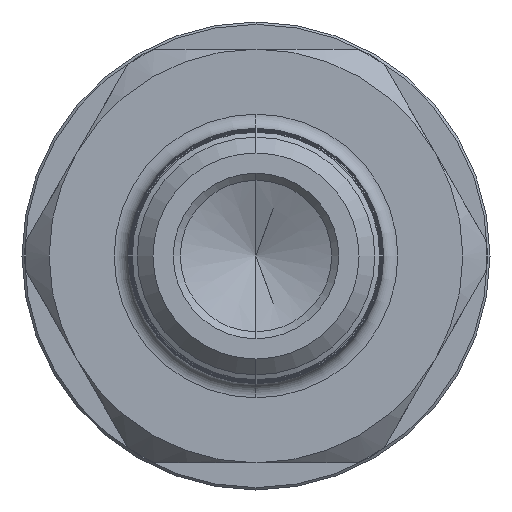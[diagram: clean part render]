
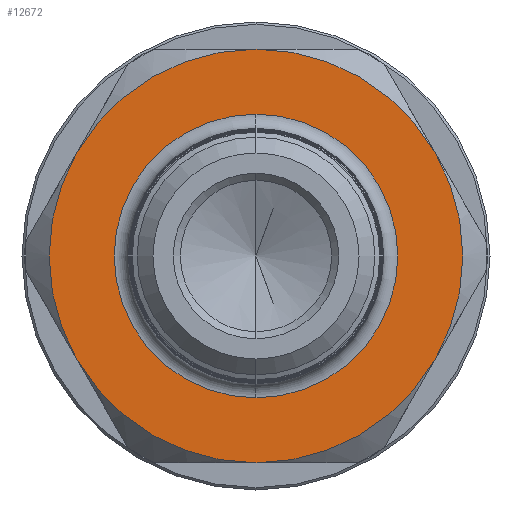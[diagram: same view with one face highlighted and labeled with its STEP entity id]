
A CAD part, left-side view. The second image highlights one B-rep face of the part: STEP entity #12672.
In plain terms, the highlighted planar face has unit normal (-1, 0, 0).
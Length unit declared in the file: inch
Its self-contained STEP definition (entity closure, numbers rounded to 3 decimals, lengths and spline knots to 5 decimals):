
#348 = AXIS2_PLACEMENT_3D ( 'NONE', #9027, #2394, #11567 ) ;
#489 = CARTESIAN_POINT ( 'NONE',  ( 0.585, 0., 0. ) ) ;
#509 = ORIENTED_EDGE ( 'NONE', *, *, #13363, .T. ) ;
#1036 = DIRECTION ( 'NONE',  ( 1., 0., 0. ) ) ;
#1224 = DIRECTION ( 'NONE',  ( 0., 0., 1. ) ) ;
#1473 = DIRECTION ( 'NONE',  ( 0., 0., 1. ) ) ;
#1523 = AXIS2_PLACEMENT_3D ( 'NONE', #5526, #14771, #13636 ) ;
#1628 = CARTESIAN_POINT ( 'NONE',  ( 0.585, 0., 0. ) ) ;
#1769 = DIRECTION ( 'NONE',  ( 0., 0., 1. ) ) ;
#2010 = DIRECTION ( 'NONE',  ( 0., 0., 1. ) ) ;
#2245 = CIRCLE ( 'NONE', #1523, 0.4375 ) ;
#2303 = CARTESIAN_POINT ( 'NONE',  ( 0.585, 0.37889, 0.21875 ) ) ;
#2394 = DIRECTION ( 'NONE',  ( -1., 0., 0. ) ) ;
#2930 = ORIENTED_EDGE ( 'NONE', *, *, #8125, .T. ) ;
#2974 = EDGE_CURVE ( 'NONE', #11165, #11963, #11722, .T. ) ;
#3140 = ORIENTED_EDGE ( 'NONE', *, *, #2974, .T. ) ;
#3210 = AXIS2_PLACEMENT_3D ( 'NONE', #9764, #12318, #2010 ) ;
#3410 = CIRCLE ( 'NONE', #4601, 0.3 ) ;
#3675 = ORIENTED_EDGE ( 'NONE', *, *, #14677, .T. ) ;
#3727 = EDGE_CURVE ( 'NONE', #6161, #7448, #10422, .T. ) ;
#3799 = VERTEX_POINT ( 'NONE', #14045 ) ;
#4431 = CIRCLE ( 'NONE', #14760, 0.4375 ) ;
#4442 = CARTESIAN_POINT ( 'NONE',  ( 0.585, 0.37889, -0.21875 ) ) ;
#4601 = AXIS2_PLACEMENT_3D ( 'NONE', #9273, #13997, #1224 ) ;
#5342 = CARTESIAN_POINT ( 'NONE',  ( 0.585, 0., 0.4375 ) ) ;
#5526 = CARTESIAN_POINT ( 'NONE',  ( 0.585, 0., 0. ) ) ;
#5562 = PLANE ( 'NONE',  #348 ) ;
#5635 = DIRECTION ( 'NONE',  ( 0., 0., 1. ) ) ;
#5976 = CARTESIAN_POINT ( 'NONE',  ( 0.585, 0., 0. ) ) ;
#6138 = DIRECTION ( 'NONE',  ( -1., 0., 0. ) ) ;
#6161 = VERTEX_POINT ( 'NONE', #5342 ) ;
#6213 = DIRECTION ( 'NONE',  ( -1., 0., 0. ) ) ;
#6374 = CARTESIAN_POINT ( 'NONE',  ( 0.585, 0., 0.3 ) ) ;
#6506 = CARTESIAN_POINT ( 'NONE',  ( 0.585, -0.37889, 0.21875 ) ) ;
#6988 = CARTESIAN_POINT ( 'NONE',  ( 0.585, 0., 0. ) ) ;
#7448 = VERTEX_POINT ( 'NONE', #2303 ) ;
#7673 = CARTESIAN_POINT ( 'NONE',  ( 0.585, 0., -0.3 ) ) ;
#7777 = AXIS2_PLACEMENT_3D ( 'NONE', #12982, #6138, #1473 ) ;
#8125 = EDGE_CURVE ( 'NONE', #7448, #11165, #14024, .T. ) ;
#8640 = ORIENTED_EDGE ( 'NONE', *, *, #13914, .T. ) ;
#8870 = CARTESIAN_POINT ( 'NONE',  ( 0.585, 0., -0.4375 ) ) ;
#9027 = CARTESIAN_POINT ( 'NONE',  ( 0.585, 0., 0. ) ) ;
#9259 = CIRCLE ( 'NONE', #11422, 0.4375 ) ;
#9273 = CARTESIAN_POINT ( 'NONE',  ( 0.585, 0., 0. ) ) ;
#9425 = DIRECTION ( 'NONE',  ( 0., 0., 1. ) ) ;
#9729 = EDGE_CURVE ( 'NONE', #11226, #10025, #3410, .T. ) ;
#9764 = CARTESIAN_POINT ( 'NONE',  ( 0.585, 0., 0. ) ) ;
#10025 = VERTEX_POINT ( 'NONE', #7673 ) ;
#10422 = CIRCLE ( 'NONE', #7777, 0.4375 ) ;
#10560 = DIRECTION ( 'NONE',  ( -1., 0., 0. ) ) ;
#11155 = CIRCLE ( 'NONE', #14272, 0.3 ) ;
#11165 = VERTEX_POINT ( 'NONE', #4442 ) ;
#11226 = VERTEX_POINT ( 'NONE', #6374 ) ;
#11263 = EDGE_LOOP ( 'NONE', ( #3675, #509, #12527, #13755, #2930, #3140 ) ) ;
#11422 = AXIS2_PLACEMENT_3D ( 'NONE', #489, #12069, #1769 ) ;
#11494 = FACE_BOUND ( 'NONE', #13653, .T. ) ;
#11567 = DIRECTION ( 'NONE',  ( 0., 0., 1. ) ) ;
#11722 = CIRCLE ( 'NONE', #11970, 0.4375 ) ;
#11963 = VERTEX_POINT ( 'NONE', #8870 ) ;
#11970 = AXIS2_PLACEMENT_3D ( 'NONE', #5976, #10560, #9425 ) ;
#12069 = DIRECTION ( 'NONE',  ( -1., 0., 0. ) ) ;
#12318 = DIRECTION ( 'NONE',  ( -1., 0., 0. ) ) ;
#12527 = ORIENTED_EDGE ( 'NONE', *, *, #14043, .T. ) ;
#12582 = ORIENTED_EDGE ( 'NONE', *, *, #9729, .T. ) ;
#12672 = ADVANCED_FACE ( 'NONE', ( #11494, #13605 ), #5562, .T. ) ;
#12982 = CARTESIAN_POINT ( 'NONE',  ( 0.585, 0., 0. ) ) ;
#13363 = EDGE_CURVE ( 'NONE', #3799, #14549, #9259, .T. ) ;
#13605 = FACE_OUTER_BOUND ( 'NONE', #11263, .T. ) ;
#13636 = DIRECTION ( 'NONE',  ( 0., 0., 1. ) ) ;
#13653 = EDGE_LOOP ( 'NONE', ( #12582, #8640 ) ) ;
#13755 = ORIENTED_EDGE ( 'NONE', *, *, #3727, .T. ) ;
#13914 = EDGE_CURVE ( 'NONE', #10025, #11226, #11155, .T. ) ;
#13997 = DIRECTION ( 'NONE',  ( 1., 0., 0. ) ) ;
#14024 = CIRCLE ( 'NONE', #3210, 0.4375 ) ;
#14043 = EDGE_CURVE ( 'NONE', #14549, #6161, #4431, .T. ) ;
#14045 = CARTESIAN_POINT ( 'NONE',  ( 0.585, -0.37889, -0.21875 ) ) ;
#14272 = AXIS2_PLACEMENT_3D ( 'NONE', #6988, #1036, #5635 ) ;
#14487 = DIRECTION ( 'NONE',  ( 0., 0., 1. ) ) ;
#14549 = VERTEX_POINT ( 'NONE', #6506 ) ;
#14677 = EDGE_CURVE ( 'NONE', #11963, #3799, #2245, .T. ) ;
#14760 = AXIS2_PLACEMENT_3D ( 'NONE', #1628, #6213, #14487 ) ;
#14771 = DIRECTION ( 'NONE',  ( -1., 0., 0. ) ) ;
